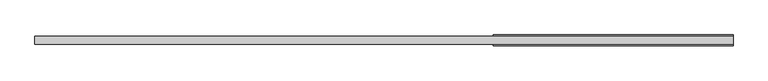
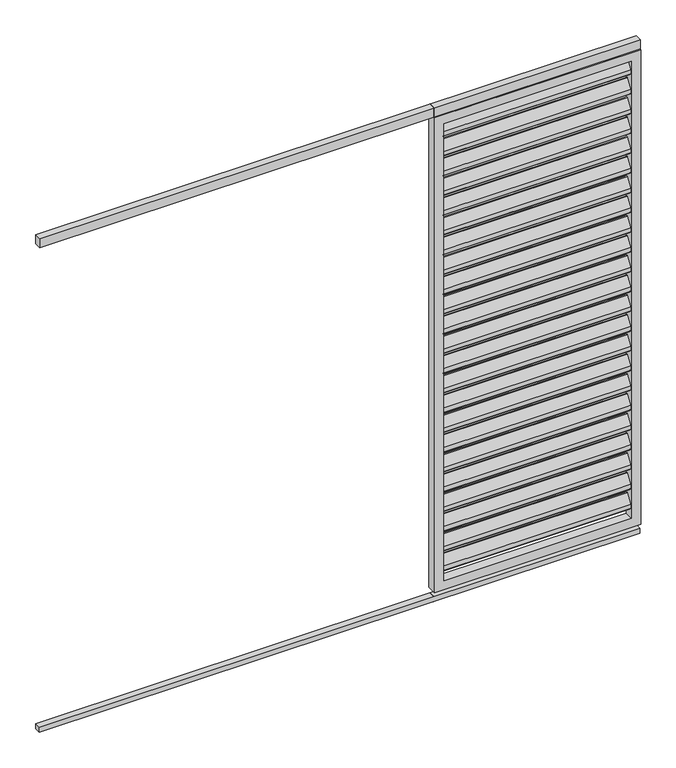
"""IFC4 building model written with IfcOpenShell, lengths in millimetres: proxy geometry, Renson_Camargue_Loggia_Paro_Aluminium : Renson_Camargue_Loggia_Paro_Aluminium."""

from ifc_helpers import new_model, si_unit, point, frame, frame_2d, origin, origin_with_axes, place, context, project, spatial, polyline, circle_curve, trimmed, segment, composite_curve, outline, extrude, source, transform, mapped, element, save


def generic_models_aff1b167(model_context):
    return source(origin(), model_context, "Body", "SweptSolid", [
        extrude(outline(composite_curve([segment(trimmed(circle_curve(frame_2d((12.6675921, 2162.6587719)), 3.0), [point((10.1515804, 2164.292689))], [point((15.6675921, 2162.6587719))], False, "CARTESIAN"), True, "CONTINUOUS"), segment(polyline([(15.6675921, 2162.6587719), (15.6675921, 2144.2979873)]), True, "CONTINUOUS"), segment(trimmed(circle_curve(frame_2d((12.6675921, 2144.2979873)), 3.0), [point((15.6675921, 2144.2979873))], [point((15.1836038, 2142.6640702))], False, "CARTESIAN"), True, "CONTINUOUS"), segment(polyline([(15.1836038, 2142.6640702), (-8.8163962, 2105.707311)]), True, "CONTINUOUS"), segment(trimmed(circle_curve(frame_2d((-11.3324079, 2107.3412281)), 3.0), [point((-8.8163962, 2105.707311))], [point((-14.3324079, 2107.3412281))], False, "CARTESIAN"), True, "CONTINUOUS"), segment(polyline([(-14.3324079, 2107.3412281), (-14.3324079, 2126.5906532), (10.1515804, 2164.292689)]), True, "CONTINUOUS")], self_intersect=False)), frame((-405.0, 0.0, 0.0), z_axis=(1.0, 0.0, 0.0), x_axis=(0.0, 1.0, 0.0)), (0.0, 0.0, 1.0), 810.0),
        extrude(outline(composite_curve([segment(trimmed(circle_curve(frame_2d((12.6675921, 2072.6587719)), 3.0), [point((10.1515804, 2074.292689))], [point((15.6675921, 2072.6587719))], False, "CARTESIAN"), True, "CONTINUOUS"), segment(polyline([(15.6675921, 2072.6587719), (15.6675921, 2054.2979873)]), True, "CONTINUOUS"), segment(trimmed(circle_curve(frame_2d((12.6675921, 2054.2979873)), 3.0), [point((15.6675921, 2054.2979873))], [point((15.1836038, 2052.6640702))], False, "CARTESIAN"), True, "CONTINUOUS"), segment(polyline([(15.1836038, 2052.6640702), (-8.8163962, 2015.707311)]), True, "CONTINUOUS"), segment(trimmed(circle_curve(frame_2d((-11.3324079, 2017.3412281)), 3.0), [point((-8.8163962, 2015.707311))], [point((-14.3324079, 2017.3412281))], False, "CARTESIAN"), True, "CONTINUOUS"), segment(polyline([(-14.3324079, 2017.3412281), (-14.3324079, 2036.5906532), (10.1515804, 2074.292689)]), True, "CONTINUOUS")], self_intersect=False)), frame((-405.0, 0.0, 0.0), z_axis=(1.0, 0.0, 0.0), x_axis=(0.0, 1.0, 0.0)), (0.0, 0.0, 1.0), 810.0),
        extrude(outline(composite_curve([segment(trimmed(circle_curve(frame_2d((12.6675921, 1982.6587719)), 3.0), [point((10.1515804, 1984.292689))], [point((15.6675921, 1982.6587719))], False, "CARTESIAN"), True, "CONTINUOUS"), segment(polyline([(15.6675921, 1982.6587719), (15.6675921, 1964.2979873)]), True, "CONTINUOUS"), segment(trimmed(circle_curve(frame_2d((12.6675921, 1964.2979873)), 3.0), [point((15.6675921, 1964.2979873))], [point((15.1836038, 1962.6640702))], False, "CARTESIAN"), True, "CONTINUOUS"), segment(polyline([(15.1836038, 1962.6640702), (-8.8163962, 1925.707311)]), True, "CONTINUOUS"), segment(trimmed(circle_curve(frame_2d((-11.3324079, 1927.3412281)), 3.0), [point((-8.8163962, 1925.707311))], [point((-14.3324079, 1927.3412281))], False, "CARTESIAN"), True, "CONTINUOUS"), segment(polyline([(-14.3324079, 1927.3412281), (-14.3324079, 1946.5906532), (10.1515804, 1984.292689)]), True, "CONTINUOUS")], self_intersect=False)), frame((-405.0, 0.0, 0.0), z_axis=(1.0, 0.0, 0.0), x_axis=(0.0, 1.0, 0.0)), (0.0, 0.0, 1.0), 810.0),
        extrude(outline(composite_curve([segment(trimmed(circle_curve(frame_2d((12.6675921, 1892.6587719)), 3.0), [point((10.1515804, 1894.292689))], [point((15.6675921, 1892.6587719))], False, "CARTESIAN"), True, "CONTINUOUS"), segment(polyline([(15.6675921, 1892.6587719), (15.6675921, 1874.2979873)]), True, "CONTINUOUS"), segment(trimmed(circle_curve(frame_2d((12.6675921, 1874.2979873)), 3.0), [point((15.6675921, 1874.2979873))], [point((15.1836038, 1872.6640702))], False, "CARTESIAN"), True, "CONTINUOUS"), segment(polyline([(15.1836038, 1872.6640702), (-8.8163962, 1835.707311)]), True, "CONTINUOUS"), segment(trimmed(circle_curve(frame_2d((-11.3324079, 1837.3412281)), 3.0), [point((-8.8163962, 1835.707311))], [point((-14.3324079, 1837.3412281))], False, "CARTESIAN"), True, "CONTINUOUS"), segment(polyline([(-14.3324079, 1837.3412281), (-14.3324079, 1856.5906532), (10.1515804, 1894.292689)]), True, "CONTINUOUS")], self_intersect=False)), frame((-405.0, 0.0, 0.0), z_axis=(1.0, 0.0, 0.0), x_axis=(0.0, 1.0, 0.0)), (0.0, 0.0, 1.0), 810.0),
        extrude(outline(composite_curve([segment(trimmed(circle_curve(frame_2d((12.6675921, 1802.6587719)), 3.0), [point((10.1515804, 1804.292689))], [point((15.6675921, 1802.6587719))], False, "CARTESIAN"), True, "CONTINUOUS"), segment(polyline([(15.6675921, 1802.6587719), (15.6675921, 1784.2979873)]), True, "CONTINUOUS"), segment(trimmed(circle_curve(frame_2d((12.6675921, 1784.2979873)), 3.0), [point((15.6675921, 1784.2979873))], [point((15.1836038, 1782.6640702))], False, "CARTESIAN"), True, "CONTINUOUS"), segment(polyline([(15.1836038, 1782.6640702), (-8.8163962, 1745.707311)]), True, "CONTINUOUS"), segment(trimmed(circle_curve(frame_2d((-11.3324079, 1747.3412281)), 3.0), [point((-8.8163962, 1745.707311))], [point((-14.3324079, 1747.3412281))], False, "CARTESIAN"), True, "CONTINUOUS"), segment(polyline([(-14.3324079, 1747.3412281), (-14.3324079, 1766.5906532), (10.1515804, 1804.292689)]), True, "CONTINUOUS")], self_intersect=False)), frame((-405.0, 0.0, 0.0), z_axis=(1.0, 0.0, 0.0), x_axis=(0.0, 1.0, 0.0)), (0.0, 0.0, 1.0), 810.0),
        extrude(outline(composite_curve([segment(trimmed(circle_curve(frame_2d((12.6675921, 1712.6587719)), 3.0), [point((10.1515804, 1714.292689))], [point((15.6675921, 1712.6587719))], False, "CARTESIAN"), True, "CONTINUOUS"), segment(polyline([(15.6675921, 1712.6587719), (15.6675921, 1694.2979873)]), True, "CONTINUOUS"), segment(trimmed(circle_curve(frame_2d((12.6675921, 1694.2979873)), 3.0), [point((15.6675921, 1694.2979873))], [point((15.1836038, 1692.6640702))], False, "CARTESIAN"), True, "CONTINUOUS"), segment(polyline([(15.1836038, 1692.6640702), (-8.8163962, 1655.707311)]), True, "CONTINUOUS"), segment(trimmed(circle_curve(frame_2d((-11.3324079, 1657.3412281)), 3.0), [point((-8.8163962, 1655.707311))], [point((-14.3324079, 1657.3412281))], False, "CARTESIAN"), True, "CONTINUOUS"), segment(polyline([(-14.3324079, 1657.3412281), (-14.3324079, 1676.5906532), (10.1515804, 1714.292689)]), True, "CONTINUOUS")], self_intersect=False)), frame((-405.0, 0.0, 0.0), z_axis=(1.0, 0.0, 0.0), x_axis=(0.0, 1.0, 0.0)), (0.0, 0.0, 1.0), 810.0),
        extrude(outline(composite_curve([segment(trimmed(circle_curve(frame_2d((12.6675921, 1622.6587719)), 3.0), [point((10.1515804, 1624.292689))], [point((15.6675921, 1622.6587719))], False, "CARTESIAN"), True, "CONTINUOUS"), segment(polyline([(15.6675921, 1622.6587719), (15.6675921, 1604.2979873)]), True, "CONTINUOUS"), segment(trimmed(circle_curve(frame_2d((12.6675921, 1604.2979873)), 3.0), [point((15.6675921, 1604.2979873))], [point((15.1836038, 1602.6640702))], False, "CARTESIAN"), True, "CONTINUOUS"), segment(polyline([(15.1836038, 1602.6640702), (-8.8163962, 1565.707311)]), True, "CONTINUOUS"), segment(trimmed(circle_curve(frame_2d((-11.3324079, 1567.3412281)), 3.0), [point((-8.8163962, 1565.707311))], [point((-14.3324079, 1567.3412281))], False, "CARTESIAN"), True, "CONTINUOUS"), segment(polyline([(-14.3324079, 1567.3412281), (-14.3324079, 1586.5906532), (10.1515804, 1624.292689)]), True, "CONTINUOUS")], self_intersect=False)), frame((-405.0, 0.0, 0.0), z_axis=(1.0, 0.0, 0.0), x_axis=(0.0, 1.0, 0.0)), (0.0, 0.0, 1.0), 810.0),
        extrude(outline(composite_curve([segment(trimmed(circle_curve(frame_2d((12.6675921, 1532.6587719)), 3.0), [point((10.1515804, 1534.292689))], [point((15.6675921, 1532.6587719))], False, "CARTESIAN"), True, "CONTINUOUS"), segment(polyline([(15.6675921, 1532.6587719), (15.6675921, 1514.2979873)]), True, "CONTINUOUS"), segment(trimmed(circle_curve(frame_2d((12.6675921, 1514.2979873)), 3.0), [point((15.6675921, 1514.2979873))], [point((15.1836038, 1512.6640702))], False, "CARTESIAN"), True, "CONTINUOUS"), segment(polyline([(15.1836038, 1512.6640702), (-8.8163962, 1475.707311)]), True, "CONTINUOUS"), segment(trimmed(circle_curve(frame_2d((-11.3324079, 1477.3412281)), 3.0), [point((-8.8163962, 1475.707311))], [point((-14.3324079, 1477.3412281))], False, "CARTESIAN"), True, "CONTINUOUS"), segment(polyline([(-14.3324079, 1477.3412281), (-14.3324079, 1496.5906532), (10.1515804, 1534.292689)]), True, "CONTINUOUS")], self_intersect=False)), frame((-405.0, 0.0, 0.0), z_axis=(1.0, 0.0, 0.0), x_axis=(0.0, 1.0, 0.0)), (0.0, 0.0, 1.0), 810.0),
        extrude(outline(composite_curve([segment(trimmed(circle_curve(frame_2d((12.6675921, 1442.6587719)), 3.0), [point((10.1515804, 1444.292689))], [point((15.6675921, 1442.6587719))], False, "CARTESIAN"), True, "CONTINUOUS"), segment(polyline([(15.6675921, 1442.6587719), (15.6675921, 1424.2979873)]), True, "CONTINUOUS"), segment(trimmed(circle_curve(frame_2d((12.6675921, 1424.2979873)), 3.0), [point((15.6675921, 1424.2979873))], [point((15.1836038, 1422.6640702))], False, "CARTESIAN"), True, "CONTINUOUS"), segment(polyline([(15.1836038, 1422.6640702), (-8.8163962, 1385.707311)]), True, "CONTINUOUS"), segment(trimmed(circle_curve(frame_2d((-11.3324079, 1387.3412281)), 3.0), [point((-8.8163962, 1385.707311))], [point((-14.3324079, 1387.3412281))], False, "CARTESIAN"), True, "CONTINUOUS"), segment(polyline([(-14.3324079, 1387.3412281), (-14.3324079, 1406.5906532), (10.1515804, 1444.292689)]), True, "CONTINUOUS")], self_intersect=False)), frame((-405.0, 0.0, 0.0), z_axis=(1.0, 0.0, 0.0), x_axis=(0.0, 1.0, 0.0)), (0.0, 0.0, 1.0), 810.0),
        extrude(outline(composite_curve([segment(trimmed(circle_curve(frame_2d((12.6675921, 1352.6587719)), 3.0), [point((10.1515804, 1354.292689))], [point((15.6675921, 1352.6587719))], False, "CARTESIAN"), True, "CONTINUOUS"), segment(polyline([(15.6675921, 1352.6587719), (15.6675921, 1334.2979873)]), True, "CONTINUOUS"), segment(trimmed(circle_curve(frame_2d((12.6675921, 1334.2979873)), 3.0), [point((15.6675921, 1334.2979873))], [point((15.1836038, 1332.6640702))], False, "CARTESIAN"), True, "CONTINUOUS"), segment(polyline([(15.1836038, 1332.6640702), (-8.8163962, 1295.707311)]), True, "CONTINUOUS"), segment(trimmed(circle_curve(frame_2d((-11.3324079, 1297.3412281)), 3.0), [point((-8.8163962, 1295.707311))], [point((-14.3324079, 1297.3412281))], False, "CARTESIAN"), True, "CONTINUOUS"), segment(polyline([(-14.3324079, 1297.3412281), (-14.3324079, 1316.5906532), (10.1515804, 1354.292689)]), True, "CONTINUOUS")], self_intersect=False)), frame((-405.0, 0.0, 0.0), z_axis=(1.0, 0.0, 0.0), x_axis=(0.0, 1.0, 0.0)), (0.0, 0.0, 1.0), 810.0),
        extrude(outline(composite_curve([segment(trimmed(circle_curve(frame_2d((12.6675921, 1262.6587719)), 3.0), [point((10.1515804, 1264.292689))], [point((15.6675921, 1262.6587719))], False, "CARTESIAN"), True, "CONTINUOUS"), segment(polyline([(15.6675921, 1262.6587719), (15.6675921, 1244.2979873)]), True, "CONTINUOUS"), segment(trimmed(circle_curve(frame_2d((12.6675921, 1244.2979873)), 3.0), [point((15.6675921, 1244.2979873))], [point((15.1836038, 1242.6640702))], False, "CARTESIAN"), True, "CONTINUOUS"), segment(polyline([(15.1836038, 1242.6640702), (-8.8163962, 1205.707311)]), True, "CONTINUOUS"), segment(trimmed(circle_curve(frame_2d((-11.3324079, 1207.3412281)), 3.0), [point((-8.8163962, 1205.707311))], [point((-14.3324079, 1207.3412281))], False, "CARTESIAN"), True, "CONTINUOUS"), segment(polyline([(-14.3324079, 1207.3412281), (-14.3324079, 1226.5906532), (10.1515804, 1264.292689)]), True, "CONTINUOUS")], self_intersect=False)), frame((-405.0, 0.0, 0.0), z_axis=(1.0, 0.0, 0.0), x_axis=(0.0, 1.0, 0.0)), (0.0, 0.0, 1.0), 810.0),
        extrude(outline(composite_curve([segment(trimmed(circle_curve(frame_2d((12.6675921, 1172.6587719)), 3.0), [point((10.1515804, 1174.292689))], [point((15.6675921, 1172.6587719))], False, "CARTESIAN"), True, "CONTINUOUS"), segment(polyline([(15.6675921, 1172.6587719), (15.6675921, 1154.2979873)]), True, "CONTINUOUS"), segment(trimmed(circle_curve(frame_2d((12.6675921, 1154.2979873)), 3.0), [point((15.6675921, 1154.2979873))], [point((15.1836038, 1152.6640702))], False, "CARTESIAN"), True, "CONTINUOUS"), segment(polyline([(15.1836038, 1152.6640702), (-8.8163962, 1115.707311)]), True, "CONTINUOUS"), segment(trimmed(circle_curve(frame_2d((-11.3324079, 1117.3412281)), 3.0), [point((-8.8163962, 1115.707311))], [point((-14.3324079, 1117.3412281))], False, "CARTESIAN"), True, "CONTINUOUS"), segment(polyline([(-14.3324079, 1117.3412281), (-14.3324079, 1136.5906532), (10.1515804, 1174.292689)]), True, "CONTINUOUS")], self_intersect=False)), frame((-405.0, 0.0, 0.0), z_axis=(1.0, 0.0, 0.0), x_axis=(0.0, 1.0, 0.0)), (0.0, 0.0, 1.0), 810.0),
        extrude(outline(composite_curve([segment(trimmed(circle_curve(frame_2d((12.6675921, 1082.6587719)), 3.0), [point((10.1515804, 1084.292689))], [point((15.6675921, 1082.6587719))], False, "CARTESIAN"), True, "CONTINUOUS"), segment(polyline([(15.6675921, 1082.6587719), (15.6675921, 1064.2979873)]), True, "CONTINUOUS"), segment(trimmed(circle_curve(frame_2d((12.6675921, 1064.2979873)), 3.0), [point((15.6675921, 1064.2979873))], [point((15.1836038, 1062.6640702))], False, "CARTESIAN"), True, "CONTINUOUS"), segment(polyline([(15.1836038, 1062.6640702), (-8.8163962, 1025.707311)]), True, "CONTINUOUS"), segment(trimmed(circle_curve(frame_2d((-11.3324079, 1027.3412281)), 3.0), [point((-8.8163962, 1025.707311))], [point((-14.3324079, 1027.3412281))], False, "CARTESIAN"), True, "CONTINUOUS"), segment(polyline([(-14.3324079, 1027.3412281), (-14.3324079, 1046.5906532), (10.1515804, 1084.292689)]), True, "CONTINUOUS")], self_intersect=False)), frame((-405.0, 0.0, 0.0), z_axis=(1.0, 0.0, 0.0), x_axis=(0.0, 1.0, 0.0)), (0.0, 0.0, 1.0), 810.0),
        extrude(outline(composite_curve([segment(trimmed(circle_curve(frame_2d((12.6675921, 992.6587719)), 3.0), [point((10.1515804, 994.292689))], [point((15.6675921, 992.6587719))], False, "CARTESIAN"), True, "CONTINUOUS"), segment(polyline([(15.6675921, 992.6587719), (15.6675921, 974.2979873)]), True, "CONTINUOUS"), segment(trimmed(circle_curve(frame_2d((12.6675921, 974.2979873)), 3.0), [point((15.6675921, 974.2979873))], [point((15.1836038, 972.6640702))], False, "CARTESIAN"), True, "CONTINUOUS"), segment(polyline([(15.1836038, 972.6640702), (-8.8163962, 935.707311)]), True, "CONTINUOUS"), segment(trimmed(circle_curve(frame_2d((-11.3324079, 937.3412281)), 3.0), [point((-8.8163962, 935.707311))], [point((-14.3324079, 937.3412281))], False, "CARTESIAN"), True, "CONTINUOUS"), segment(polyline([(-14.3324079, 937.3412281), (-14.3324079, 956.5906532), (10.1515804, 994.292689)]), True, "CONTINUOUS")], self_intersect=False)), frame((-405.0, 0.0, 0.0), z_axis=(1.0, 0.0, 0.0), x_axis=(0.0, 1.0, 0.0)), (0.0, 0.0, 1.0), 810.0),
        extrude(outline(composite_curve([segment(trimmed(circle_curve(frame_2d((12.6675921, 902.6587719)), 3.0), [point((10.1515804, 904.292689))], [point((15.6675921, 902.6587719))], False, "CARTESIAN"), True, "CONTINUOUS"), segment(polyline([(15.6675921, 902.6587719), (15.6675921, 884.2979873)]), True, "CONTINUOUS"), segment(trimmed(circle_curve(frame_2d((12.6675921, 884.2979873)), 3.0), [point((15.6675921, 884.2979873))], [point((15.1836038, 882.6640702))], False, "CARTESIAN"), True, "CONTINUOUS"), segment(polyline([(15.1836038, 882.6640702), (-8.8163962, 845.707311)]), True, "CONTINUOUS"), segment(trimmed(circle_curve(frame_2d((-11.3324079, 847.3412281)), 3.0), [point((-8.8163962, 845.707311))], [point((-14.3324079, 847.3412281))], False, "CARTESIAN"), True, "CONTINUOUS"), segment(polyline([(-14.3324079, 847.3412281), (-14.3324079, 866.5906532), (10.1515804, 904.292689)]), True, "CONTINUOUS")], self_intersect=False)), frame((-405.0, 0.0, 0.0), z_axis=(1.0, 0.0, 0.0), x_axis=(0.0, 1.0, 0.0)), (0.0, 0.0, 1.0), 810.0),
        extrude(outline(composite_curve([segment(trimmed(circle_curve(frame_2d((12.6675921, 812.6587719)), 3.0), [point((10.1515804, 814.292689))], [point((15.6675921, 812.6587719))], False, "CARTESIAN"), True, "CONTINUOUS"), segment(polyline([(15.6675921, 812.6587719), (15.6675921, 794.2979873)]), True, "CONTINUOUS"), segment(trimmed(circle_curve(frame_2d((12.6675921, 794.2979873)), 3.0), [point((15.6675921, 794.2979873))], [point((15.1836038, 792.6640702))], False, "CARTESIAN"), True, "CONTINUOUS"), segment(polyline([(15.1836038, 792.6640702), (-8.8163962, 755.707311)]), True, "CONTINUOUS"), segment(trimmed(circle_curve(frame_2d((-11.3324079, 757.3412281)), 3.0), [point((-8.8163962, 755.707311))], [point((-14.3324079, 757.3412281))], False, "CARTESIAN"), True, "CONTINUOUS"), segment(polyline([(-14.3324079, 757.3412281), (-14.3324079, 776.5906532), (10.1515804, 814.292689)]), True, "CONTINUOUS")], self_intersect=False)), frame((-405.0, 0.0, 0.0), z_axis=(1.0, 0.0, 0.0), x_axis=(0.0, 1.0, 0.0)), (0.0, 0.0, 1.0), 810.0),
        extrude(outline(composite_curve([segment(trimmed(circle_curve(frame_2d((12.6675921, 722.6587719)), 3.0), [point((10.1515804, 724.292689))], [point((15.6675921, 722.6587719))], False, "CARTESIAN"), True, "CONTINUOUS"), segment(polyline([(15.6675921, 722.6587719), (15.6675921, 704.2979873)]), True, "CONTINUOUS"), segment(trimmed(circle_curve(frame_2d((12.6675921, 704.2979873)), 3.0), [point((15.6675921, 704.2979873))], [point((15.1836038, 702.6640702))], False, "CARTESIAN"), True, "CONTINUOUS"), segment(polyline([(15.1836038, 702.6640702), (-8.8163962, 665.707311)]), True, "CONTINUOUS"), segment(trimmed(circle_curve(frame_2d((-11.3324079, 667.3412281)), 3.0), [point((-8.8163962, 665.707311))], [point((-14.3324079, 667.3412281))], False, "CARTESIAN"), True, "CONTINUOUS"), segment(polyline([(-14.3324079, 667.3412281), (-14.3324079, 686.5906532), (10.1515804, 724.292689)]), True, "CONTINUOUS")], self_intersect=False)), frame((-405.0, 0.0, 0.0), z_axis=(1.0, 0.0, 0.0), x_axis=(0.0, 1.0, 0.0)), (0.0, 0.0, 1.0), 810.0),
        extrude(outline(composite_curve([segment(trimmed(circle_curve(frame_2d((12.6675921, 632.6587719)), 3.0), [point((10.1515804, 634.292689))], [point((15.6675921, 632.6587719))], False, "CARTESIAN"), True, "CONTINUOUS"), segment(polyline([(15.6675921, 632.6587719), (15.6675921, 614.2979873)]), True, "CONTINUOUS"), segment(trimmed(circle_curve(frame_2d((12.6675921, 614.2979873)), 3.0), [point((15.6675921, 614.2979873))], [point((15.1836038, 612.6640702))], False, "CARTESIAN"), True, "CONTINUOUS"), segment(polyline([(15.1836038, 612.6640702), (-8.8163962, 575.707311)]), True, "CONTINUOUS"), segment(trimmed(circle_curve(frame_2d((-11.3324079, 577.3412281)), 3.0), [point((-8.8163962, 575.707311))], [point((-14.3324079, 577.3412281))], False, "CARTESIAN"), True, "CONTINUOUS"), segment(polyline([(-14.3324079, 577.3412281), (-14.3324079, 596.5906532), (10.1515804, 634.292689)]), True, "CONTINUOUS")], self_intersect=False)), frame((-405.0, 0.0, 0.0), z_axis=(1.0, 0.0, 0.0), x_axis=(0.0, 1.0, 0.0)), (0.0, 0.0, 1.0), 810.0),
        extrude(outline(composite_curve([segment(trimmed(circle_curve(frame_2d((12.6675921, 542.6587719)), 3.0), [point((10.1515804, 544.292689))], [point((15.6675921, 542.6587719))], False, "CARTESIAN"), True, "CONTINUOUS"), segment(polyline([(15.6675921, 542.6587719), (15.6675921, 524.2979873)]), True, "CONTINUOUS"), segment(trimmed(circle_curve(frame_2d((12.6675921, 524.2979873)), 3.0), [point((15.6675921, 524.2979873))], [point((15.1836038, 522.6640702))], False, "CARTESIAN"), True, "CONTINUOUS"), segment(polyline([(15.1836038, 522.6640702), (-8.8163962, 485.707311)]), True, "CONTINUOUS"), segment(trimmed(circle_curve(frame_2d((-11.3324079, 487.3412281)), 3.0), [point((-8.8163962, 485.707311))], [point((-14.3324079, 487.3412281))], False, "CARTESIAN"), True, "CONTINUOUS"), segment(polyline([(-14.3324079, 487.3412281), (-14.3324079, 506.5906532), (10.1515804, 544.292689)]), True, "CONTINUOUS")], self_intersect=False)), frame((-405.0, 0.0, 0.0), z_axis=(1.0, 0.0, 0.0), x_axis=(0.0, 1.0, 0.0)), (0.0, 0.0, 1.0), 810.0),
        extrude(outline(composite_curve([segment(trimmed(circle_curve(frame_2d((12.6675921, 452.6587719)), 3.0), [point((10.1515804, 454.292689))], [point((15.6675921, 452.6587719))], False, "CARTESIAN"), True, "CONTINUOUS"), segment(polyline([(15.6675921, 452.6587719), (15.6675921, 434.2979873)]), True, "CONTINUOUS"), segment(trimmed(circle_curve(frame_2d((12.6675921, 434.2979873)), 3.0), [point((15.6675921, 434.2979873))], [point((15.1836038, 432.6640702))], False, "CARTESIAN"), True, "CONTINUOUS"), segment(polyline([(15.1836038, 432.6640702), (-8.8163962, 395.707311)]), True, "CONTINUOUS"), segment(trimmed(circle_curve(frame_2d((-11.3324079, 397.3412281)), 3.0), [point((-8.8163962, 395.707311))], [point((-14.3324079, 397.3412281))], False, "CARTESIAN"), True, "CONTINUOUS"), segment(polyline([(-14.3324079, 397.3412281), (-14.3324079, 416.5906532), (10.1515804, 454.292689)]), True, "CONTINUOUS")], self_intersect=False)), frame((-405.0, 0.0, 0.0), z_axis=(1.0, 0.0, 0.0), x_axis=(0.0, 1.0, 0.0)), (0.0, 0.0, 1.0), 810.0),
        extrude(outline(composite_curve([segment(trimmed(circle_curve(frame_2d((12.6675921, 362.6587719)), 3.0), [point((10.1515804, 364.292689))], [point((15.6675921, 362.6587719))], False, "CARTESIAN"), True, "CONTINUOUS"), segment(polyline([(15.6675921, 362.6587719), (15.6675921, 344.2979873)]), True, "CONTINUOUS"), segment(trimmed(circle_curve(frame_2d((12.6675921, 344.2979873)), 3.0), [point((15.6675921, 344.2979873))], [point((15.1836038, 342.6640702))], False, "CARTESIAN"), True, "CONTINUOUS"), segment(polyline([(15.1836038, 342.6640702), (-8.8163962, 305.707311)]), True, "CONTINUOUS"), segment(trimmed(circle_curve(frame_2d((-11.3324079, 307.3412281)), 3.0), [point((-8.8163962, 305.707311))], [point((-14.3324079, 307.3412281))], False, "CARTESIAN"), True, "CONTINUOUS"), segment(polyline([(-14.3324079, 307.3412281), (-14.3324079, 326.5906532), (10.1515804, 364.292689)]), True, "CONTINUOUS")], self_intersect=False)), frame((-405.0, 0.0, 0.0), z_axis=(1.0, 0.0, 0.0), x_axis=(0.0, 1.0, 0.0)), (0.0, 0.0, 1.0), 810.0),
        extrude(outline(composite_curve([segment(trimmed(circle_curve(frame_2d((12.6675921, 272.6587719)), 3.0), [point((10.1515804, 274.292689))], [point((15.6675921, 272.6587719))], False, "CARTESIAN"), True, "CONTINUOUS"), segment(polyline([(15.6675921, 272.6587719), (15.6675921, 254.2979873)]), True, "CONTINUOUS"), segment(trimmed(circle_curve(frame_2d((12.6675921, 254.2979873)), 3.0), [point((15.6675921, 254.2979873))], [point((15.1836038, 252.6640702))], False, "CARTESIAN"), True, "CONTINUOUS"), segment(polyline([(15.1836038, 252.6640702), (-8.8163962, 215.707311)]), True, "CONTINUOUS"), segment(trimmed(circle_curve(frame_2d((-11.3324079, 217.3412281)), 3.0), [point((-8.8163962, 215.707311))], [point((-14.3324079, 217.3412281))], False, "CARTESIAN"), True, "CONTINUOUS"), segment(polyline([(-14.3324079, 217.3412281), (-14.3324079, 236.5906532), (10.1515804, 274.292689)]), True, "CONTINUOUS")], self_intersect=False)), frame((-405.0, 0.0, 0.0), z_axis=(1.0, 0.0, 0.0), x_axis=(0.0, 1.0, 0.0)), (0.0, 0.0, 1.0), 810.0),
        extrude(outline(composite_curve([segment(trimmed(circle_curve(frame_2d((12.6675921, 182.6587719)), 3.0), [point((10.1515804, 184.292689))], [point((15.6675921, 182.6587719))], False, "CARTESIAN"), True, "CONTINUOUS"), segment(polyline([(15.6675921, 182.6587719), (15.6675921, 164.2979873)]), True, "CONTINUOUS"), segment(trimmed(circle_curve(frame_2d((12.6675921, 164.2979873)), 3.0), [point((15.6675921, 164.2979873))], [point((15.1836038, 162.6640702))], False, "CARTESIAN"), True, "CONTINUOUS"), segment(polyline([(15.1836038, 162.6640702), (-8.8163962, 125.707311)]), True, "CONTINUOUS"), segment(trimmed(circle_curve(frame_2d((-11.3324079, 127.3412281)), 3.0), [point((-8.8163962, 125.707311))], [point((-14.3324079, 127.3412281))], False, "CARTESIAN"), True, "CONTINUOUS"), segment(polyline([(-14.3324079, 127.3412281), (-14.3324079, 146.5906532), (10.1515804, 184.292689)]), True, "CONTINUOUS")], self_intersect=False)), frame((-405.0, 0.0, 0.0), z_axis=(1.0, 0.0, 0.0), x_axis=(0.0, 1.0, 0.0)), (0.0, 0.0, 1.0), 810.0),
        extrude(outline(polyline([(445.0, 15.0), (445.0, -15.0), (-2145.0, -15.0), (-2145.0, 15.0), (445.0, 15.0)])), frame((0.0, 0.0, 2207.7138321), z_axis=(0.0, 0.0, 1.0), x_axis=(1.0, 0.0, 0.0)), (0.0, 0.0, 1.0), 42.2861679),
        extrude(outline(polyline([(-444.0, 15.0), (-444.0, -15.0), (-445.0, -15.0), (-445.0, 15.0), (-444.0, 15.0)])), frame((0.0, 0.0, 2207.7138321), z_axis=(0.0, 0.0, 1.0), x_axis=(1.0, 0.0, 0.0)), (0.0, 0.0, 1.0), 42.2861679),
        extrude(outline(polyline([(445.0, -13.0), (-2145.0, -13.0), (-2145.0, 14.0), (445.0, 14.0), (445.0, -13.0)])), origin_with_axes(), (0.0, 0.0, 1.0), 23.0),
        extrude(outline(polyline([(-444.0, -13.0), (-445.0, -13.0), (-445.0, 14.0), (-444.0, 14.0), (-444.0, -13.0)])), origin_with_axes(), (0.0, 0.0, 1.0), 23.0),
        extrude(outline(polyline([(2207.7138321, -445.0), (45.0, -445.0), (45.0, 445.0), (2207.7138321, 445.0), (2207.7138321, -445.0)]), holes=[polyline([(2167.7138321, 405.0), (85.0, 405.0), (85.0, -405.0), (2167.7138321, -405.0), (2167.7138321, 405.0)])]), frame((0.0, -20.0, 0.0), z_axis=(0.0, 1.0, 0.0), x_axis=(0.0, 0.0, 1.0)), (0.0, 0.0, 1.0), 40.0),
    ])


if __name__ == "__main__":
    model = new_model("IFC4")
    model_context = context("Model", 3, world=origin())
    ifc_project = project(units=[si_unit("LENGTHUNIT", "METRE", prefix="MILLI")], contexts=[model_context])
    site = spatial("IfcSite", under=ifc_project)
    building = spatial("IfcBuilding", under=site)
    placement = place(None, origin())
    generic_models_shape = generic_models_aff1b167(model_context)
    element("IfcBuildingElementProxy", 1, Name="Renson_Camargue_Loggia_Paro_Aluminium : Renson_Camargue_Loggia_Paro_Aluminium", ObjectType="Renson_Camargue_Loggia_Paro_Aluminium : Renson_Camargue_Loggia_Paro_Aluminium", at=placement, inside=building, context=model_context, shape_type="MappedRepresentation", body=[
        mapped(generic_models_shape, transform((0.0, 0.0, 0.0), x_axis=(1.0, 0.0, 0.0), y_axis=(0.0, 1.0, 0.0), z_axis=(0.0, 0.0, 1.0))),
    ])
    save(model, "model.ifc")
